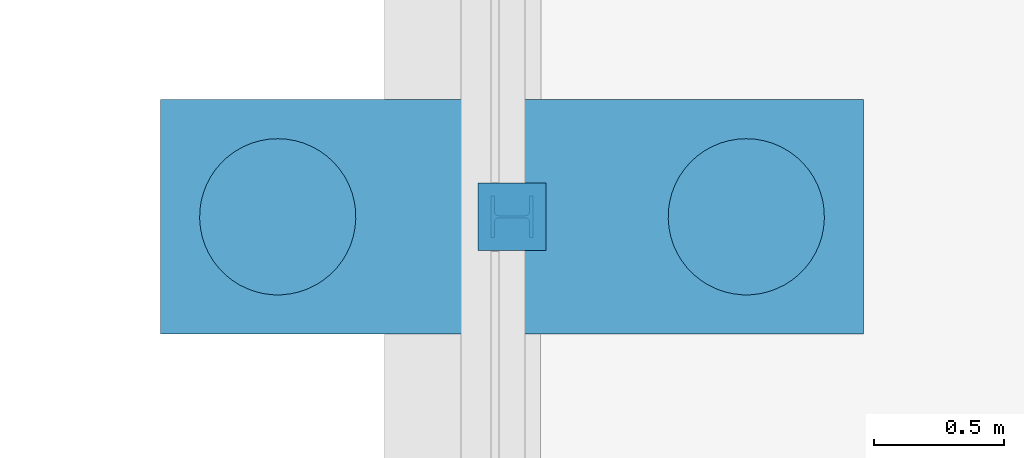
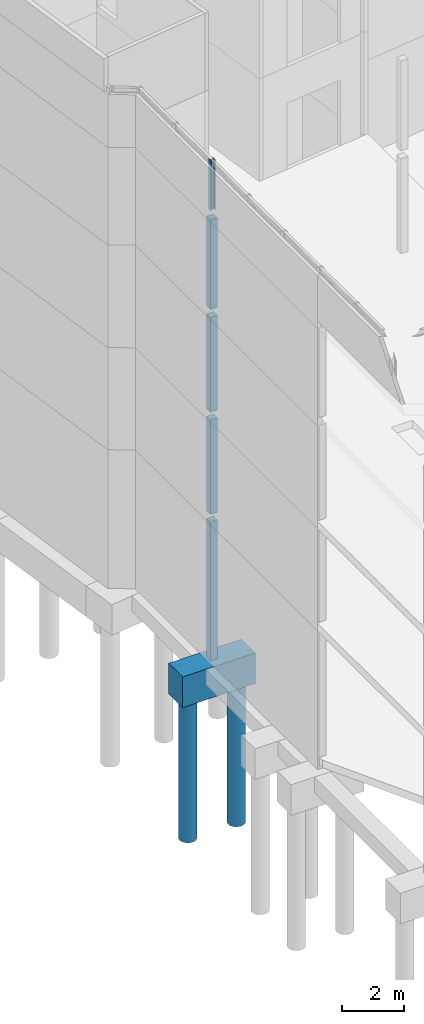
# One storey, part 5 of 82: 8 columns.
"""IFC2X3 building model written with IfcOpenShell, lengths in millimetres."""

from ifc_helpers import new_model, si_unit, frame, frame_2d, origin_with_axes, place, context, subcontext, project, spatial, rectangle, circle, i_section, extrude, material, type_object, element, save


model = new_model("IFC2X3")

# Units and contexts
model_context = context("Model", 3, precision=1e-05, world=origin_with_axes())
body_context = subcontext(model_context, "Body", "Model", "MODEL_VIEW")
ifc_project = project(units=[si_unit("LENGTHUNIT", "METRE", prefix="MILLI"), si_unit("AREAUNIT", "SQUARE_METRE"), si_unit("VOLUMEUNIT", "CUBIC_METRE"), si_unit("MASSUNIT", "GRAM", prefix="KILO"), si_unit("TIMEUNIT", "SECOND"), si_unit("PLANEANGLEUNIT", "RADIAN"), si_unit("SOLIDANGLEUNIT", "STERADIAN"), si_unit("THERMODYNAMICTEMPERATUREUNIT", "DEGREE_CELSIUS"), si_unit("LUMINOUSINTENSITYUNIT", "LUMEN")], contexts=[model_context])

# Site, building, storey
site_placement = place(None, origin_with_axes())
site = spatial("IfcSite", under=ifc_project, at=site_placement, Name="Undefined", CompositionType="ELEMENT")
building_placement = place(site_placement, origin_with_axes())
building = spatial("IfcBuilding", under=site, at=building_placement, Name="Undefined", CompositionType="ELEMENT")
storey_placement = place(building_placement, origin_with_axes())
storey = spatial("IfcBuildingStorey", under=building, at=storey_placement, Name="Undefined", CompositionType="ELEMENT", Elevation=0.0)

# Columns
ifc_material_1 = material(Name="CONCRETE/C25/30")
column_type_1 = type_object("IfcColumnType", Name="260*260", PredefinedType="NOTDEFINED")
column_1_placement = place(storey_placement, frame((-2.387969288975e-08, 13950.0043030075, 13330.0), z_axis=(0.0, 0.0, 1.0), x_axis=(1.0, 0.0, 0.0)))
element("IfcColumn", 1, at=column_1_placement, inside=storey, type_object=column_type_1, material=ifc_material_1, Name="POTEAU", ObjectType="260*260", context=body_context, shape_type="SweptSolid", body=[
    extrude(rectangle(XDim=260.0, YDim=260.0, at=frame_2d((5.17284206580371e-08, 4.49290382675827e-10), x_axis=(1.0, 0.0))), frame((0.0, 0.0, 3529.99999999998), z_axis=(0.0, -6.50000002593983e-08, -0.999999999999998), x_axis=(-2.77555756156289e-17, -1.0, 0.0)), (0.0, 0.0, 1.0), 3530.0),
])
column_2_placement = place(storey_placement, frame((-2.387969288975e-08, 13950.0043030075, 9305.0), z_axis=(0.0, 0.0, 1.0), x_axis=(1.0, 0.0, 0.0)))
element("IfcColumn", 2, at=column_2_placement, inside=storey, type_object=column_type_1, material=ifc_material_1, Name="POTEAU", ObjectType="260*260", context=body_context, shape_type="SweptSolid", body=[
    extrude(rectangle(XDim=260.0, YDim=260.0, at=frame_2d((5.17284206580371e-08, 4.49290382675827e-10), x_axis=(1.0, 0.0))), frame((0.0, 0.0, 3725.0), z_axis=(0.0, -6.50000002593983e-08, -0.999999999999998), x_axis=(-2.77555756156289e-17, -1.0, 0.0)), (0.0, 0.0, 1.0), 3725.0),
])
column_3_placement = place(storey_placement, frame((-2.38687789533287e-08, 13950.0043030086, 5300.0), z_axis=(0.0, 0.0, 1.0), x_axis=(1.0, 0.0, 0.0)))
element("IfcColumn", 3, at=column_3_placement, inside=storey, type_object=column_type_1, material=ifc_material_1, Name="POTEAU", ObjectType="260*260", context=body_context, shape_type="SweptSolid", body=[
    extrude(rectangle(XDim=260.0, YDim=260.0, at=frame_2d((5.17284206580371e-08, 4.49290382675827e-10), x_axis=(1.0, 0.0))), frame((0.0, 0.0, 3705.00000000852), z_axis=(0.0, -6.50000002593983e-08, -0.999999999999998), x_axis=(-2.77555756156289e-17, -1.0, 0.0)), (0.0, 0.0, 1.0), 3705.0),
])
column_4_placement = place(storey_placement, frame((-2.387969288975e-08, 13950.0043030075, -449.999511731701), z_axis=(0.0, 0.0, 1.0), x_axis=(1.0, 0.0, 0.0)))
element("IfcColumn", 4, at=column_4_placement, inside=storey, type_object=column_type_1, material=ifc_material_1, Name="POTEAU", ObjectType="260*260", context=body_context, shape_type="SweptSolid", body=[
    extrude(rectangle(XDim=260.0, YDim=260.0, at=frame_2d((5.17284206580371e-08, 4.49290382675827e-10), x_axis=(1.0, 0.0))), frame((0.0, 0.0, 5449.9995117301), z_axis=(0.0, -6.50000002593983e-08, -0.999999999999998), x_axis=(-2.77555756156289e-17, -1.0, 0.0)), (0.0, 0.0, 1.0), 5450.0),
])
ifc_material_2 = material(Name="STEEL/S275JR")
column_type_2 = type_object("IfcColumnType", Name="HEB160", PredefinedType="NOTDEFINED")
column_5_placement = place(storey_placement, frame((5.82498614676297e-07, 13949.9999998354, 17160.0), z_axis=(0.0, 0.0, 1.0), x_axis=(1.0, 0.0, 0.0)))
element("IfcColumn", 5, at=column_5_placement, inside=storey, type_object=column_type_2, material=ifc_material_2, Name="POTEAU", ObjectType="HEB160", context=body_context, shape_type="SweptSolid", body=[
    extrude(i_section(OverallWidth=160.0, OverallDepth=160.0, WebThickness=8.0, FlangeThickness=13.0, FilletRadius=15.0, at=frame_2d((5.17284206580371e-08, 4.49290382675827e-10), x_axis=(1.0, 0.0))), frame((0.0, 0.0, 1965.0), z_axis=(0.0, -6.50000002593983e-08, -0.999999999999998), x_axis=(-2.77555756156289e-17, -1.0, 0.0)), (0.0, 0.0, 1.0), 1965.0),
])
ifc_material_3 = material(Name="CONCRETE/C30/37")
column_type_3 = type_object("IfcColumnType", Name="2700*900", PredefinedType="NOTDEFINED")
column_6_placement = place(storey_placement, frame((1.17870513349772e-08, 13950.0000000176, -1650.0), z_axis=(0.0, 0.0, 1.0), x_axis=(1.0, 0.0, 0.0)))
element("IfcColumn", 6, at=column_6_placement, inside=storey, type_object=column_type_3, material=ifc_material_3, Name="SEMELLE", ObjectType="2700*900", context=body_context, shape_type="SweptSolid", body=[
    extrude(rectangle(XDim=900.0, YDim=2700.0, at=frame_2d((5.17284206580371e-08, 4.49290382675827e-10), x_axis=(1.0, 0.0))), frame((0.0, 0.0, 1200.0), z_axis=(0.0, -6.50000002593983e-08, -0.999999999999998), x_axis=(-2.77555756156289e-17, -1.0, 0.0)), (0.0, 0.0, 1.0), 1200.0),
])
column_type_4 = type_object("IfcColumnType", Name="D600", PredefinedType="NOTDEFINED")
for number, where, z_axis, x_axis in (
    (7, (-899.999999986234, 13950.0000000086, -7175.0), (0.0, 0.0, 1.0), (1.0, 0.0, 0.0)),
    (8, (900.000000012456, 13950.0000000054, -7175.0), (0.0, 0.0, 1.0), (1.0, 0.0, 0.0)),
):
    element("IfcColumn", number, at=place(storey_placement, frame(where, z_axis=z_axis, x_axis=x_axis)), inside=storey, type_object=column_type_4, material=ifc_material_1, Name="PIEU", ObjectType="D600", context=body_context, shape_type="SweptSolid", body=[
        extrude(circle(Radius=300.0, at=frame_2d((5.17284206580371e-08, 4.49290382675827e-10), x_axis=(1.0, 0.0))), frame((0.0, 0.0, 5750.0), z_axis=(0.0, -6.50000002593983e-08, -0.999999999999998), x_axis=(0.0, 1.0, 0.0)), (0.0, 0.0, 1.0), 5750.0),
    ])

save(model, "model.ifc")
